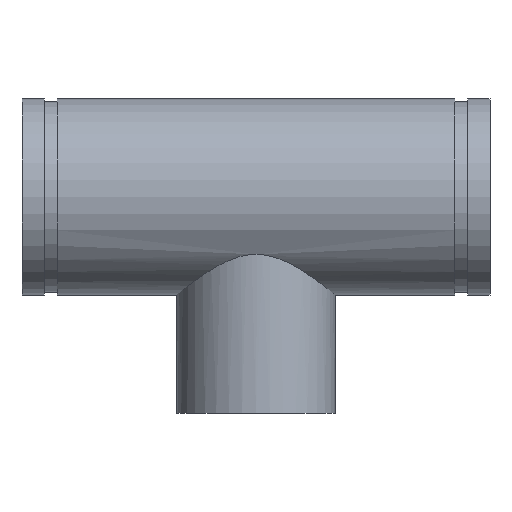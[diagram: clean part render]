
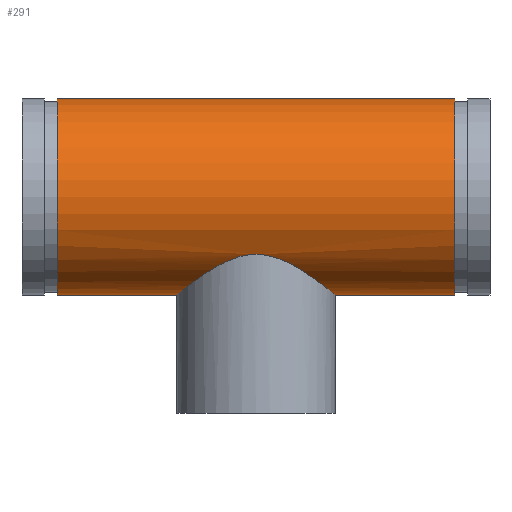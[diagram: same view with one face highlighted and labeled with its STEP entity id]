
A CAD part, top view. The second image highlights one B-rep face of the part: STEP entity #291.
In plain terms, the highlighted cylindrical face has radius 70.65 mm (diameter 141.3 mm), a full revolution.
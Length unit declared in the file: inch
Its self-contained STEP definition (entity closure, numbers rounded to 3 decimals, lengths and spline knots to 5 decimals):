
#45=B_SPLINE_CURVE_WITH_KNOTS('',3,(#511,#512,#513,#514,#515,#516,#517,
#518,#519,#520,#521,#522,#523,#524,#525,#526,#527,#528,#529,#530,#531,#532,
#533,#534,#535,#536,#537,#538,#539,#540,#541,#542,#543,#544,#545,#546,#547,
#548,#549,#550,#551,#552,#553,#554,#555,#556,#557,#558,#559,#560),
 .UNSPECIFIED.,.F.,.F.,(4,2,2,2,2,2,2,2,2,2,2,2,2,2,2,2,2,2,2,2,2,2,2,2,
4),(0.,1.17644,2.35288,3.52933,4.70577,
5.84294,6.9801,8.11727,9.25444,10.39161,
11.52877,12.66594,13.80311,14.97955,16.15599,
17.33243,18.50888,19.68532,20.86176,22.0382,
23.21464,24.35181,25.48898,26.62615,27.76331),
 .UNSPECIFIED.);
#46=B_SPLINE_CURVE_WITH_KNOTS('',3,(#561,#562,#563,#564,#565,#566,#567,
#568,#569,#570,#571,#572,#573,#574,#575,#576,#577,#578),.UNSPECIFIED.,.F.,
 .F.,(4,2,2,2,2,2,2,2,4),(27.76331,28.90048,30.03765,
31.17482,32.31198,33.48843,34.66487,35.84131,
37.01775),.UNSPECIFIED.);
#51=LINE('',#508,#59);
#59=VECTOR('',#410,2.7815);
#67=CYLINDRICAL_SURFACE('',#338,2.7815);
#77=FACE_BOUND('',#108,.T.);
#88=FACE_OUTER_BOUND('',#107,.T.);
#107=EDGE_LOOP('',(#221,#222,#223,#224));
#108=EDGE_LOOP('',(#225,#226));
#121=CIRCLE('',#321,2.7815);
#132=CIRCLE('',#337,2.7815);
#141=VERTEX_POINT('',#476);
#152=VERTEX_POINT('',#505);
#153=VERTEX_POINT('',#509);
#154=VERTEX_POINT('',#510);
#165=EDGE_CURVE('',#141,#141,#121,.T.);
#178=EDGE_CURVE('',#152,#152,#132,.T.);
#179=EDGE_CURVE('',#152,#141,#51,.T.);
#180=EDGE_CURVE('',#153,#154,#45,.T.);
#181=EDGE_CURVE('',#154,#153,#46,.T.);
#221=ORIENTED_EDGE('',*,*,#178,.T.);
#222=ORIENTED_EDGE('',*,*,#179,.T.);
#223=ORIENTED_EDGE('',*,*,#165,.T.);
#224=ORIENTED_EDGE('',*,*,#179,.F.);
#225=ORIENTED_EDGE('',*,*,#180,.F.);
#226=ORIENTED_EDGE('',*,*,#181,.F.);
#291=ADVANCED_FACE('',(#88,#77),#67,.T.);
#321=AXIS2_PLACEMENT_3D('',#477,#372,#373);
#337=AXIS2_PLACEMENT_3D('',#506,#406,#407);
#338=AXIS2_PLACEMENT_3D('',#507,#408,#409);
#372=DIRECTION('center_axis',(-1.,0.,0.));
#373=DIRECTION('ref_axis',(0.,-1.,0.));
#406=DIRECTION('center_axis',(1.,0.,0.));
#407=DIRECTION('ref_axis',(0.,-1.,0.));
#408=DIRECTION('center_axis',(-1.,0.,0.));
#409=DIRECTION('ref_axis',(0.,-1.,0.));
#410=DIRECTION('',(1.,0.,0.));
#476=CARTESIAN_POINT('',(5.63,2.7815,0.));
#477=CARTESIAN_POINT('Origin',(5.63,0.,0.));
#505=CARTESIAN_POINT('',(-5.63,2.7815,0.));
#506=CARTESIAN_POINT('Origin',(-5.63,0.,0.));
#507=CARTESIAN_POINT('Origin',(6.63,0.,0.));
#508=CARTESIAN_POINT('',(6.63,2.7815,0.));
#509=CARTESIAN_POINT('',(0.,-1.63531,-2.25));
#510=CARTESIAN_POINT('',(-2.25,-2.7815,0.));
#511=CARTESIAN_POINT('Ctrl Pts',(0.,-1.63531,
-2.25));
#512=CARTESIAN_POINT('Ctrl Pts',(0.15439,-1.63531,-2.25));
#513=CARTESIAN_POINT('Ctrl Pts',(0.30705,-1.65779,-2.23404));
#514=CARTESIAN_POINT('Ctrl Pts',(0.60241,-1.73692,-2.17309));
#515=CARTESIAN_POINT('Ctrl Pts',(0.74523,-1.79314,-2.12811));
#516=CARTESIAN_POINT('Ctrl Pts',(1.01644,-1.92175,-2.01273));
#517=CARTESIAN_POINT('Ctrl Pts',(1.14501,-1.99409,-1.94222));
#518=CARTESIAN_POINT('Ctrl Pts',(1.38335,-2.13986,-1.78034));
#519=CARTESIAN_POINT('Ctrl Pts',(1.49308,-2.21328,-1.6889));
#520=CARTESIAN_POINT('Ctrl Pts',(1.68563,-2.34755,-1.49635));
#521=CARTESIAN_POINT('Ctrl Pts',(1.77625,-2.4138,-1.3886));
#522=CARTESIAN_POINT('Ctrl Pts',(1.93882,-2.53582,-1.15075));
#523=CARTESIAN_POINT('Ctrl Pts',(2.01079,-2.59156,-1.02063));
#524=CARTESIAN_POINT('Ctrl Pts',(2.12837,-2.68382,-0.74497));
#525=CARTESIAN_POINT('Ctrl Pts',(2.17409,-2.7204,-0.59912));
#526=CARTESIAN_POINT('Ctrl Pts',(2.23492,-2.76925,-0.30125));
#527=CARTESIAN_POINT('Ctrl Pts',(2.25,-2.7815,-0.14923));
#528=CARTESIAN_POINT('Ctrl Pts',(2.25,-2.7815,0.14923));
#529=CARTESIAN_POINT('Ctrl Pts',(2.23492,-2.76925,0.30125));
#530=CARTESIAN_POINT('Ctrl Pts',(2.17409,-2.7204,0.59912));
#531=CARTESIAN_POINT('Ctrl Pts',(2.12837,-2.68382,0.74497));
#532=CARTESIAN_POINT('Ctrl Pts',(2.01079,-2.59156,1.02063));
#533=CARTESIAN_POINT('Ctrl Pts',(1.93882,-2.53582,1.15075));
#534=CARTESIAN_POINT('Ctrl Pts',(1.77625,-2.4138,1.3886));
#535=CARTESIAN_POINT('Ctrl Pts',(1.68563,-2.34755,1.49635));
#536=CARTESIAN_POINT('Ctrl Pts',(1.49308,-2.21328,1.6889));
#537=CARTESIAN_POINT('Ctrl Pts',(1.38335,-2.13986,1.78034));
#538=CARTESIAN_POINT('Ctrl Pts',(1.14501,-1.99409,1.94222));
#539=CARTESIAN_POINT('Ctrl Pts',(1.01644,-1.92175,2.01273));
#540=CARTESIAN_POINT('Ctrl Pts',(0.74523,-1.79314,2.12811));
#541=CARTESIAN_POINT('Ctrl Pts',(0.60241,-1.73692,2.17309));
#542=CARTESIAN_POINT('Ctrl Pts',(0.30705,-1.65779,2.23404));
#543=CARTESIAN_POINT('Ctrl Pts',(0.15439,-1.63531,2.25));
#544=CARTESIAN_POINT('Ctrl Pts',(-0.15439,-1.63531,2.25));
#545=CARTESIAN_POINT('Ctrl Pts',(-0.30705,-1.65779,2.23404));
#546=CARTESIAN_POINT('Ctrl Pts',(-0.60241,-1.73692,2.17309));
#547=CARTESIAN_POINT('Ctrl Pts',(-0.74523,-1.79314,2.12811));
#548=CARTESIAN_POINT('Ctrl Pts',(-1.01644,-1.92175,2.01273));
#549=CARTESIAN_POINT('Ctrl Pts',(-1.14501,-1.99409,1.94222));
#550=CARTESIAN_POINT('Ctrl Pts',(-1.38335,-2.13986,1.78034));
#551=CARTESIAN_POINT('Ctrl Pts',(-1.49308,-2.21328,1.6889));
#552=CARTESIAN_POINT('Ctrl Pts',(-1.68563,-2.34755,1.49635));
#553=CARTESIAN_POINT('Ctrl Pts',(-1.77625,-2.4138,1.3886));
#554=CARTESIAN_POINT('Ctrl Pts',(-1.93882,-2.53582,1.15075));
#555=CARTESIAN_POINT('Ctrl Pts',(-2.01079,-2.59156,1.02063));
#556=CARTESIAN_POINT('Ctrl Pts',(-2.12837,-2.68382,0.74497));
#557=CARTESIAN_POINT('Ctrl Pts',(-2.17409,-2.7204,0.59912));
#558=CARTESIAN_POINT('Ctrl Pts',(-2.23492,-2.76925,0.30125));
#559=CARTESIAN_POINT('Ctrl Pts',(-2.25,-2.7815,0.14923));
#560=CARTESIAN_POINT('Ctrl Pts',(-2.25,-2.7815,0.));
#561=CARTESIAN_POINT('Ctrl Pts',(-2.25,-2.7815,0.));
#562=CARTESIAN_POINT('Ctrl Pts',(-2.25,-2.7815,-0.14923));
#563=CARTESIAN_POINT('Ctrl Pts',(-2.23492,-2.76925,-0.30125));
#564=CARTESIAN_POINT('Ctrl Pts',(-2.17409,-2.7204,-0.59912));
#565=CARTESIAN_POINT('Ctrl Pts',(-2.12837,-2.68382,-0.74497));
#566=CARTESIAN_POINT('Ctrl Pts',(-2.01079,-2.59156,-1.02063));
#567=CARTESIAN_POINT('Ctrl Pts',(-1.93882,-2.53582,-1.15075));
#568=CARTESIAN_POINT('Ctrl Pts',(-1.77625,-2.4138,-1.3886));
#569=CARTESIAN_POINT('Ctrl Pts',(-1.68563,-2.34755,-1.49635));
#570=CARTESIAN_POINT('Ctrl Pts',(-1.49308,-2.21328,-1.6889));
#571=CARTESIAN_POINT('Ctrl Pts',(-1.38335,-2.13986,-1.78034));
#572=CARTESIAN_POINT('Ctrl Pts',(-1.14501,-1.99409,-1.94222));
#573=CARTESIAN_POINT('Ctrl Pts',(-1.01644,-1.92175,-2.01273));
#574=CARTESIAN_POINT('Ctrl Pts',(-0.74523,-1.79314,-2.12811));
#575=CARTESIAN_POINT('Ctrl Pts',(-0.60241,-1.73692,-2.17309));
#576=CARTESIAN_POINT('Ctrl Pts',(-0.30705,-1.65779,-2.23404));
#577=CARTESIAN_POINT('Ctrl Pts',(-0.15439,-1.63531,-2.25));
#578=CARTESIAN_POINT('Ctrl Pts',(0.,-1.63531,
-2.25));
